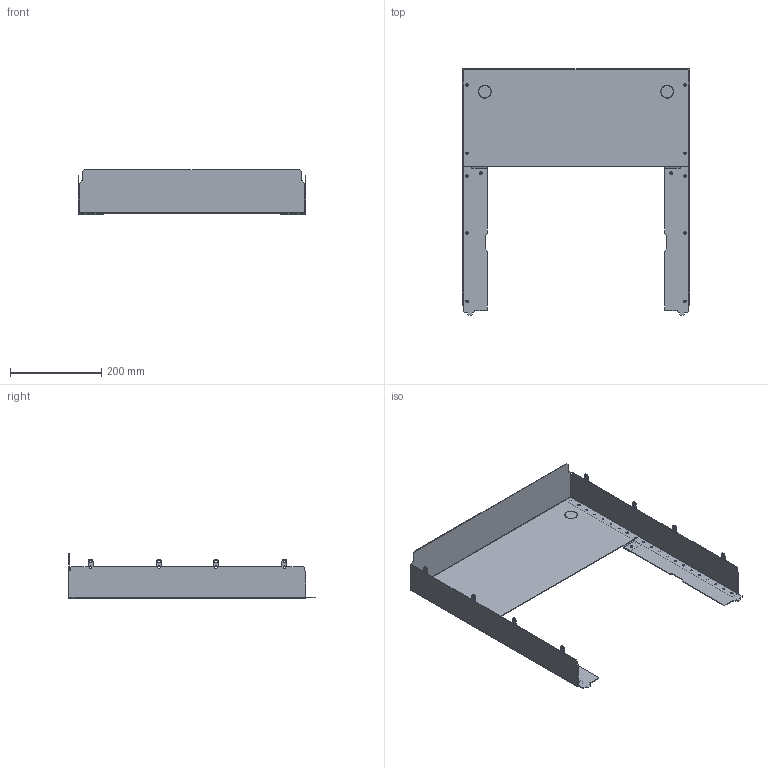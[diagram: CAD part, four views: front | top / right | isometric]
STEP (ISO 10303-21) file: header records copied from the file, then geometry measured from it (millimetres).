
FILE_DESCRIPTION(('CAx-IF Rec.Pracs.---Model Styling and Organization---1.2---2011-12-15','CAx-IF Rec.Pracs.---Geometric and Assembly Validation Properties---4.1---2014-06-16','CAx-IF Rec.Pracs.---PMI Polyline Presentation---2.0---2013-05-24'),'2;1');
FILE_NAME('R5FRC7V61125.stp','2021-07-29T02:05:10+03:00',(''),(''),'STEP Interface 4.4 by CT CoreTechnologie','3D_Evolution4.4 by CT CoreTechnologie','');
FILE_SCHEMA(('AUTOMOTIVE_DESIGN { 1 0 10303 214 1 1 1 1 }'));
Length unit declared in the file: millimetre
Products named in the file (1): R5FRC6V61125
Bounding box: 500 x 540 x 98.5 mm (x, y, z)
Surface area: 567345.4 mm2 (no closed solid volume)
Topology: 0 solids, 7 shells, 360 faces, 1022 edges, 676 vertices
Faces by surface type: cylinder 186, plane 174
Entity records: 12120 total; most frequent: DIRECTION 2116, CARTESIAN_POINT 2059, ORIENTED_EDGE 2044, EDGE_CURVE 1022, AXIS2_PLACEMENT_3D 733, VERTEX_POINT 676, VECTOR 650, LINE 650
